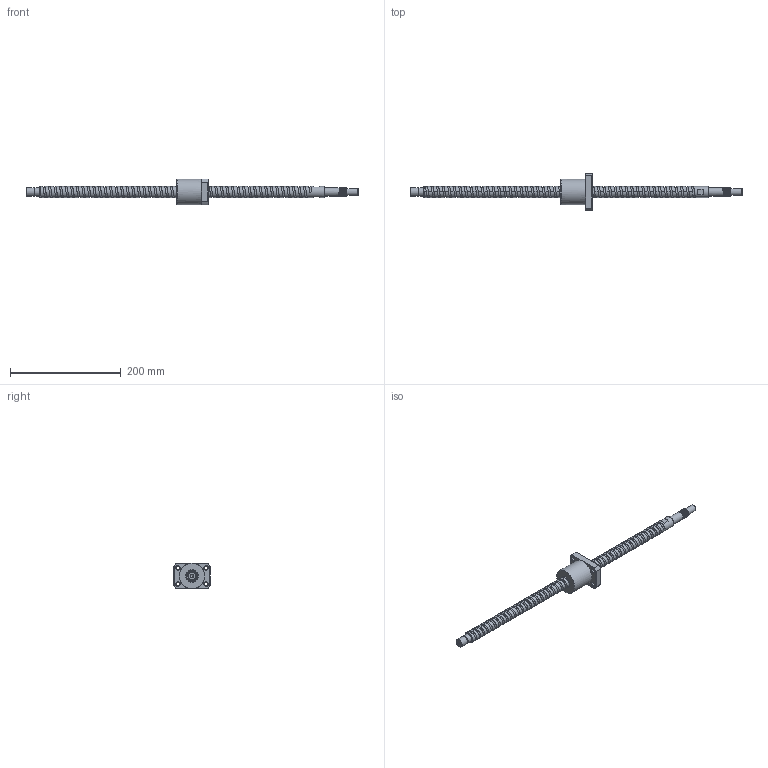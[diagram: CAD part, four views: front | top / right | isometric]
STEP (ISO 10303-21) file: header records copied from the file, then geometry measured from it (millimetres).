
FILE_DESCRIPTION (( 'STEP AP203' ), '1' );
FILE_NAME ('XSVR02010B1DGC5-599-P1.step', '2024-06-03T06:19:27', ( '' ), ( '' ), 'SwSTEP 2.0', 'SolidWorks 2022', '' );
FILE_SCHEMA (( 'CONFIG_CONTROL_DESIGN' ));
Length unit declared in the file: millimetre
Products named in the file (1): XSVR02010B1DGC5-599-P1
Bounding box: 599 x 66 x 46 mm (x, y, z)
Volume: 249595.4 mm3; surface area: 59385.2 mm2
Topology: 2 solids, 2 shells, 209 faces, 576 edges, 379 vertices
Faces by surface type: cylinder 109, plane 40, bspline 31, cone 20, torus 9
Full cylindrical faces by diameter (mm): 4 x1, 5 x15, 6.6 x4, 11 x4, 12 x1, 14.3 x1, 15 x16, 20 x49, 22.3 x1, 46 x1
Entity records: 30033 total; most frequent: CARTESIAN_POINT 27375, ORIENTED_EDGE 594, DIRECTION 409, EDGE_CURVE 297, VERTEX_POINT 212, EDGE_LOOP 187, AXIS2_PLACEMENT_3D 179, FACE_OUTER_BOUND 150
